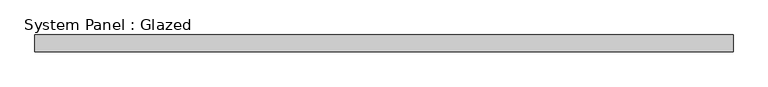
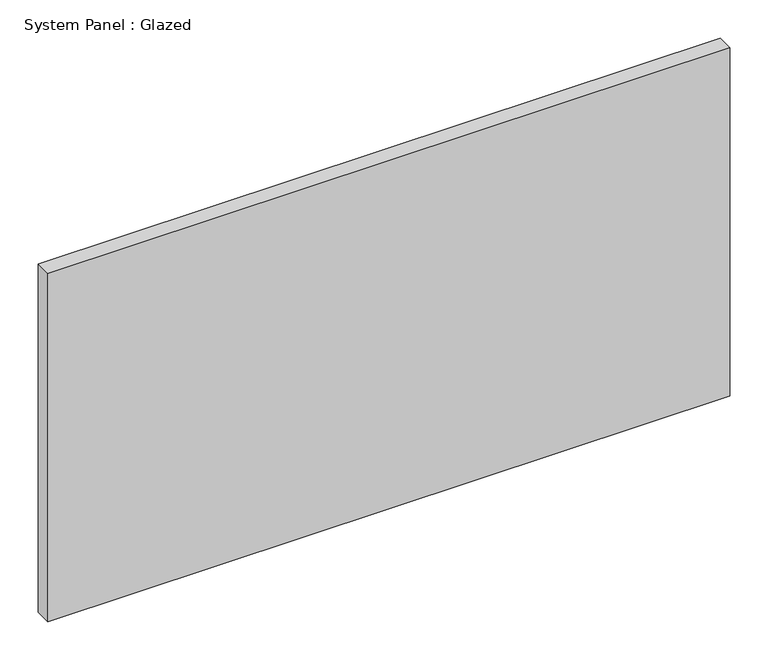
"""IFC4 building model written with IfcOpenShell, lengths in millimetres: plate geometry, System Panel : Glazed."""

from ifc_helpers import new_model, si_unit, origin, origin_with_axes, place, context, project, spatial, polyline, outline, extrude, source, transform, mapped, element, save


def system_panel_glazed_4750427d(model_context):
    return source(origin(), model_context, "Body", "SweptSolid", [
        extrude(outline(polyline([(513.5714285, 0.0), (-513.5714285, 0.0), (-513.5714285, 25.0), (513.5714285, 25.0), (513.5714285, 0.0)])), origin_with_axes(), (0.0, 0.0, 1.0), 555.0),
    ])


if __name__ == "__main__":
    model = new_model("IFC4")
    model_context = context("Model", 3, world=origin())
    ifc_project = project(units=[si_unit("LENGTHUNIT", "METRE", prefix="MILLI")], contexts=[model_context])
    site = spatial("IfcSite", under=ifc_project)
    building = spatial("IfcBuilding", under=site)
    placement = place(None, origin())
    system_panel_glazed_shape = system_panel_glazed_4750427d(model_context)
    element("IfcPlate", 1, ObjectType="System Panel : Glazed", at=placement, inside=building, context=model_context, shape_type="MappedRepresentation", body=[
        mapped(system_panel_glazed_shape, transform((0.0, 0.0, 0.0), x_axis=(1.0, 0.0, 0.0), y_axis=(0.0, 1.0, 0.0), z_axis=(0.0, 0.0, 1.0))),
    ])
    save(model, "model.ifc")
